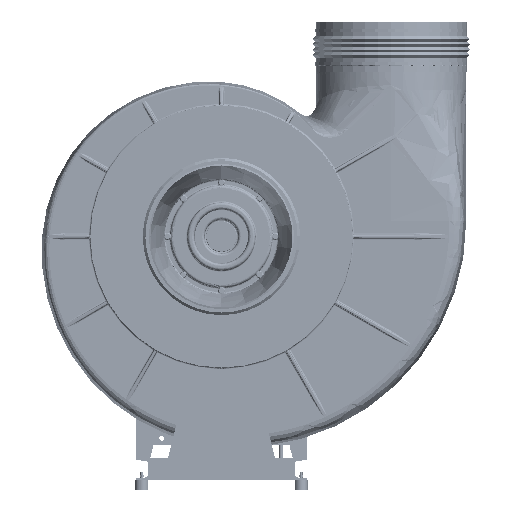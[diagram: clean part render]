
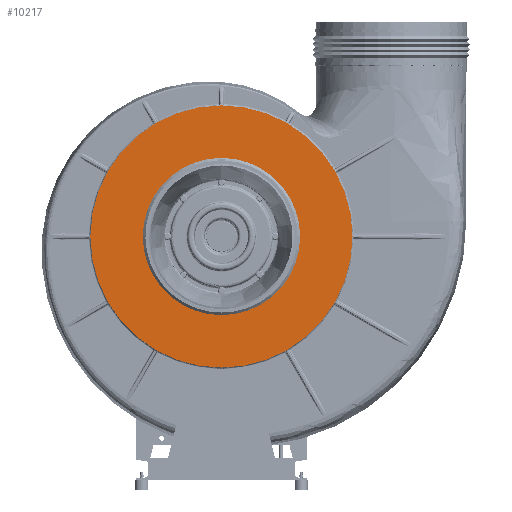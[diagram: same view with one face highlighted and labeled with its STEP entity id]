
A CAD part, front view. The second image highlights one B-rep face of the part: STEP entity #10217.
In plain terms, the highlighted planar face has unit normal (0, -1, 0).
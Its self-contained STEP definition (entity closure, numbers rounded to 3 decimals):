
#10217 = ADVANCED_FACE( '', ( #20934, #20935 ), #20936, .F. );
#20934 = FACE_OUTER_BOUND( '', #59795, .T. );
#20935 = FACE_BOUND( '', #59796, .T. );
#20936 = PLANE( '', #59797 );
#59795 = EDGE_LOOP( '', ( #95235 ) );
#59796 = EDGE_LOOP( '', ( #95236 ) );
#59797 = AXIS2_PLACEMENT_3D( '', #95237, #95238, #95239 );
#95235 = ORIENTED_EDGE( '', *, *, #107708, .T. );
#95236 = ORIENTED_EDGE( '', *, *, #114299, .T. );
#95237 = CARTESIAN_POINT( '', ( 0., 0., 0. ) );
#95238 = DIRECTION( '', ( 0., 1., 0. ) );
#95239 = DIRECTION( '', ( 0., 0., 1. ) );
#107708 = EDGE_CURVE( '', #117084, #117084, #117085, .F. );
#114299 = EDGE_CURVE( '', #126596, #126596, #126597, .T. );
#117084 = VERTEX_POINT( '', #132229 );
#117085 = CIRCLE( '', #132230, 393. );
#126596 = VERTEX_POINT( '', #162788 );
#126597 = CIRCLE( '', #162789, 225.25 );
#132229 = CARTESIAN_POINT( '', ( 0., 0., 393. ) );
#132230 = AXIS2_PLACEMENT_3D( '', #166180, #166181, #166182 );
#162788 = CARTESIAN_POINT( '', ( 225.25, 0., 0. ) );
#162789 = AXIS2_PLACEMENT_3D( '', #174377, #174378, #174379 );
#166180 = CARTESIAN_POINT( '', ( 0., 0., 0. ) );
#166181 = DIRECTION( '', ( 0., 1., 0. ) );
#166182 = DIRECTION( '', ( 0., 0., 1. ) );
#174377 = CARTESIAN_POINT( '', ( 0., 0., 0. ) );
#174378 = DIRECTION( '', ( 0., 1., 0. ) );
#174379 = DIRECTION( '', ( 1., 0., 0. ) );
